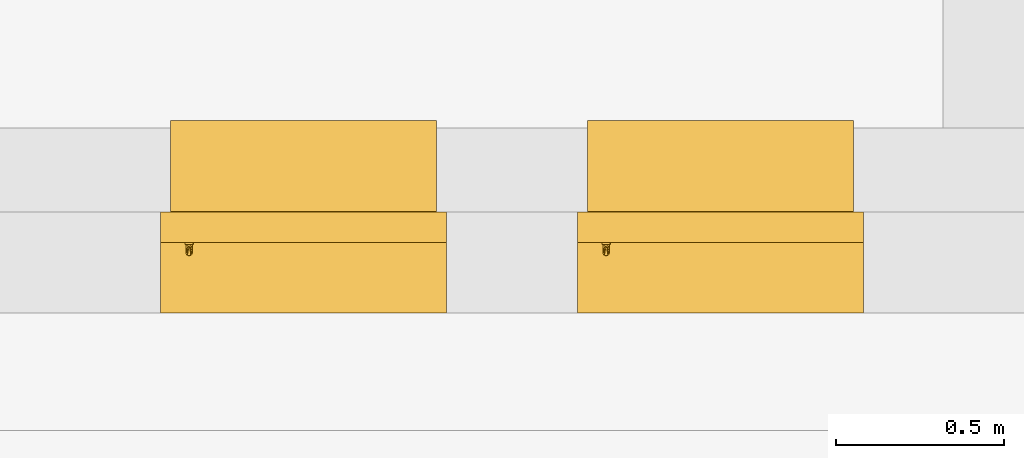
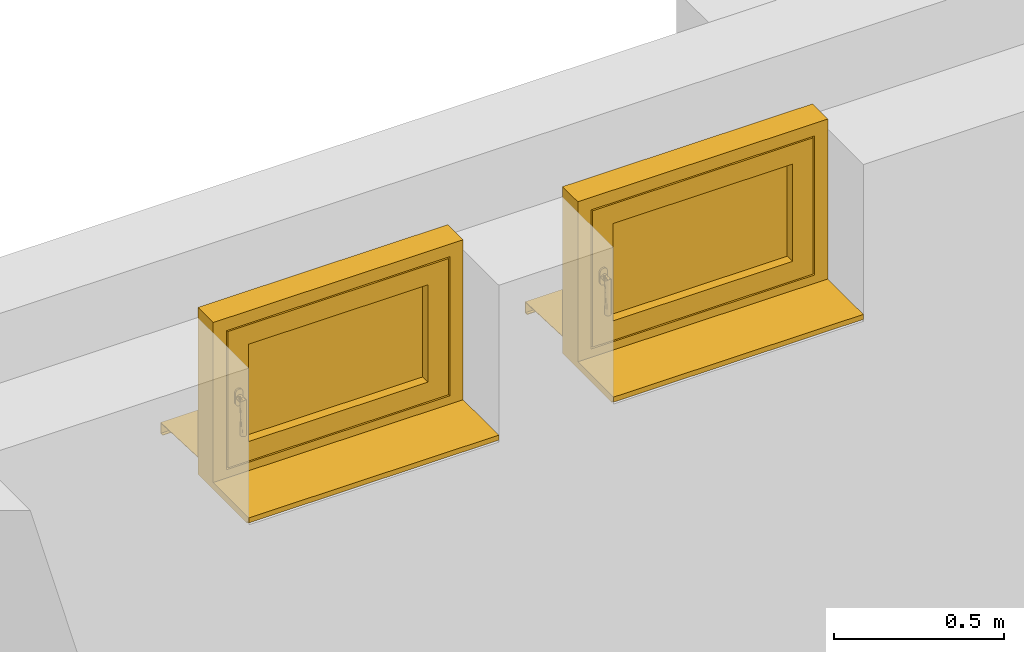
# One storey, part 20 of 22: 2 windows.
"""IFC2X3 building model written with IfcOpenShell, lengths in metres."""

from ifc_helpers import new_model, entity, si_unit, converted_unit, derived_unit, direction, frame, origin, origin_2d_with_axis, place, context, subcontext, project, spatial, polyline, rectangle, outline, extrude, faceted_brep, source, transform, mapped, material, material_list, type_object, type_shapes, element, save


model = new_model("IFC2X3")

# Units and contexts
model_context = context("Model", 3, precision=1e-05, world=origin(), true_north=direction((6.123233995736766e-17, 1.0)))
body_context = subcontext(model_context, "Body", "Model", "MODEL_VIEW")
ifc_project = project(units=[si_unit("LENGTHUNIT", "METRE"), si_unit("AREAUNIT", "SQUARE_METRE"), si_unit("VOLUMEUNIT", "CUBIC_METRE"), si_unit("POWERUNIT", "WATT"), derived_unit("USERDEFINED", [(si_unit("MASSUNIT", "GRAM", prefix="KILO"), 1), (si_unit("TIMEUNIT", "SECOND"), -3)]), derived_unit("THERMALRESISTANCEUNIT", [(si_unit("MASSUNIT", "GRAM", prefix="KILO"), -1), (si_unit("TIMEUNIT", "SECOND"), 3), (si_unit("THERMODYNAMICTEMPERATUREUNIT", "KELVIN"), 1)]), derived_unit("USERDEFINED", [(si_unit("MASSUNIT", "GRAM", prefix="KILO"), 1), (si_unit("TIMEUNIT", "SECOND"), -2), (si_unit("THERMODYNAMICTEMPERATUREUNIT", "KELVIN"), -1)]), derived_unit("THERMALTRANSMITTANCEUNIT", [(si_unit("MASSUNIT", "GRAM", prefix="KILO"), 1), (si_unit("TIMEUNIT", "SECOND"), -3), (si_unit("THERMODYNAMICTEMPERATUREUNIT", "KELVIN"), -1)]), converted_unit("PLANEANGLEUNIT", "DEGREE", entity("IfcPlaneAngleMeasure", 0.017453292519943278), si_unit("PLANEANGLEUNIT", "RADIAN"), dimensions=[0, 0, 0, 0, 0, 0, 0]), derived_unit("MOMENTOFINERTIAUNIT", [(si_unit("LENGTHUNIT", "METRE"), 4)])], contexts=[model_context])

# Site, building, storey
site_placement = place(None, origin())
site = spatial("IfcSite", under=ifc_project, at=site_placement, Name="Default", CompositionType="ELEMENT")
building_placement = place(site_placement, origin())
building = spatial("IfcBuilding", under=site, at=building_placement, CompositionType="ELEMENT")
storey_placement = place(building_placement, origin())
storey = spatial("IfcBuildingStorey", under=building, at=storey_placement, Name="Untergeschoss", CompositionType="ELEMENT", Elevation=0.0)

# Windows
ifc_material_1 = material(Name="Glas - Isolierverglasung klar")
ifc_material_2 = material(Name="Holz - generisch 140-100-70")
ifc_material_3 = material(Name="Metall - Edelstahl gebürstet")
ifc_material_4 = material(Name="Kunststoff - grau 70-70-70")
ifc_material_list = material_list([ifc_material_1, ifc_material_2, ifc_material_3, ifc_material_4])
window_style = type_object("IfcWindowStyle", Name="FE 1 tlg - DrehKipp:850 x 600", ConstructionType="NOTDEFINED", OperationType="NOTDEFINED", ParameterTakesPrecedence=False, Sizeable=False, material=ifc_material_list)
shared_shape = source(origin(), body_context, "Body", "SolidModel", [
    extrude(rectangle(XDim=0.6100000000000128, YDim=0.04399999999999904, at=origin_2d_with_axis()), frame((0.425000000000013, 0.26300000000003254, 0.13000000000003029), z_axis=(0.0, 0.0, 1.0), x_axis=(-1.0, 0.0, 0.0)), (0.0, 0.0, 1.0), 0.34999999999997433),
    extrude(outline(polyline([(-0.07333333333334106, -0.014333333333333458), (0.13666666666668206, -0.014333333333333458), (0.13666666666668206, 0.010666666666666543), (-0.06333333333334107, 0.010666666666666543), (-0.06333333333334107, 0.00366666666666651), (-0.07333333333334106, 0.00366666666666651), (-0.07333333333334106, -0.014333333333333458)])), frame((0.8500000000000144, 0.07333333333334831, 0.010666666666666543), z_axis=(-1.0, 0.0, 0.0), x_axis=(0.0, 1.0, 0.0)), (0.0, 0.0, 1.0), 0.8499999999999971),
    faceted_brep([(0.07250000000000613, 0.21000000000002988, 0.28749999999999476), (0.07250000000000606, 0.21000000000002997, 0.30499999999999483), (0.07250000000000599, 0.21000000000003, 0.3224999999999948), (0.07292592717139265, 0.21000000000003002, 0.32573523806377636), (0.07417468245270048, 0.21000000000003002, 0.3287499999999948), (0.07616116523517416, 0.21000000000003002, 0.3313388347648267), (0.078750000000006, 0.21000000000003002, 0.3333253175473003), (0.08176476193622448, 0.21000000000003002, 0.3345740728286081), (0.08500000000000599, 0.21000000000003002, 0.3349999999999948), (0.08823523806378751, 0.21000000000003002, 0.3345740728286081), (0.09125000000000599, 0.21000000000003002, 0.3333253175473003), (0.09383883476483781, 0.21000000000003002, 0.3313388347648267), (0.0958253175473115, 0.21000000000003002, 0.3287499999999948), (0.09707407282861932, 0.21000000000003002, 0.32573523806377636), (0.09750000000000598, 0.21000000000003, 0.3224999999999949), (0.09750000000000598, 0.21000000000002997, 0.30499999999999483), (0.09750000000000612, 0.21000000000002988, 0.28749999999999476), (0.09707407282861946, 0.21000000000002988, 0.2842647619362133), (0.09582531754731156, 0.21000000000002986, 0.28124999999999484), (0.09383883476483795, 0.21000000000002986, 0.278661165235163), (0.09125000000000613, 0.21000000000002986, 0.2766746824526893), (0.08823523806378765, 0.21000000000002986, 0.27542592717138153), (0.08500000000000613, 0.21000000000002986, 0.27499999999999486), (0.0817647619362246, 0.21000000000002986, 0.27542592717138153), (0.07875000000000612, 0.21000000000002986, 0.2766746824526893), (0.0761611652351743, 0.21000000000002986, 0.278661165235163), (0.07417468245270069, 0.21000000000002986, 0.28124999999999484), (0.07292592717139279, 0.21000000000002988, 0.2842647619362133), (0.07633974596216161, 0.17500000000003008, 0.3099999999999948), (0.08000000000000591, 0.20400000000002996, 0.3136602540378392), (0.07534074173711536, 0.17741180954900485, 0.30758819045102), (0.07792893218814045, 0.17292893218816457, 0.3120710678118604), (0.0824118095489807, 0.20400000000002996, 0.31465925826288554), (0.08758819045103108, 0.17034074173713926, 0.31465925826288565), (0.09000000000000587, 0.1713397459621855, 0.3136602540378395), (0.08000000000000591, 0.17133974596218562, 0.3136602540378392), (0.08241180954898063, 0.1703407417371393, 0.31465925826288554), (0.08500000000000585, 0.17000000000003, 0.314999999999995), (0.08500000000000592, 0.20400000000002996, 0.31499999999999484), (0.07534074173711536, 0.20400000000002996, 0.30758819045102), (0.07500000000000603, 0.20400000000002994, 0.30499999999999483), (0.07500000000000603, 0.19171565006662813, 0.30499999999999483), (0.07500000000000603, 0.18585782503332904, 0.30499999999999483), (0.07500000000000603, 0.18292891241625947, 0.30499999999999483), (0.07500000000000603, 0.18000000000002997, 0.30499999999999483), (0.07633974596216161, 0.20400000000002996, 0.3099999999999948), (0.07792893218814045, 0.20400000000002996, 0.3120710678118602), (0.0920710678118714, 0.1729289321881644, 0.3120710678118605), (0.09000000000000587, 0.20400000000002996, 0.31366025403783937), (0.09366025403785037, 0.17500000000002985, 0.30999999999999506), (0.09465925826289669, 0.17741180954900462, 0.30758819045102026), (0.08758819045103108, 0.20400000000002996, 0.31465925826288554), (0.0920710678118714, 0.20400000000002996, 0.3120710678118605), (0.09500000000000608, 0.18000000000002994, 0.30499999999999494), (0.09366025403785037, 0.20400000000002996, 0.30999999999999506), (0.09465925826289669, 0.20400000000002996, 0.30758819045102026), (0.09500000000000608, 0.18292891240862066, 0.30499999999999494), (0.09500000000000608, 0.18585782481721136, 0.30499999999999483), (0.09500000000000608, 0.19171564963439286, 0.30499999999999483), (0.09500000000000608, 0.20400000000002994, 0.3049999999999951), (0.09207106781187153, 0.18707106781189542, 0.29792893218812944), (0.09366025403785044, 0.18500000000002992, 0.2999999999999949), (0.09465925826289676, 0.18258819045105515, 0.3024118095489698), (0.09465925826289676, 0.20400000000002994, 0.3024118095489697), (0.09000000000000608, 0.1886602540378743, 0.29633974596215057), (0.08758819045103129, 0.18965925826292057, 0.2953407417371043), (0.09207106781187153, 0.2040000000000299, 0.29792893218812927), (0.09366025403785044, 0.20400000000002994, 0.2999999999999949), (0.090000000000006, 0.2040000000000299, 0.29633974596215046), (0.08758819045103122, 0.2040000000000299, 0.2953407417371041), (0.08500000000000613, 0.1900000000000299, 0.29499999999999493), (0.08500000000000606, 0.2040000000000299, 0.2949999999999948), (0.07792893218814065, 0.18707106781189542, 0.29792893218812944), (0.08000000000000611, 0.18866025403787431, 0.29633974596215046), (0.08241180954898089, 0.1896592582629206, 0.2953407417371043), (0.07792893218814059, 0.2040000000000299, 0.29792893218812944), (0.07534074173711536, 0.20400000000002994, 0.3024118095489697), (0.07534074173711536, 0.18258819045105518, 0.3024118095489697), (0.07633974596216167, 0.18500000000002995, 0.2999999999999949), (0.08241180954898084, 0.2040000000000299, 0.2953407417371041), (0.08000000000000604, 0.2040000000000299, 0.29633974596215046), (0.07633974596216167, 0.20400000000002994, 0.2999999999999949), (0.07500000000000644, 0.1800000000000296, 0.1849999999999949), (0.07534074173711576, 0.1825881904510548, 0.1849999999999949), (0.07633974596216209, 0.18500000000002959, 0.1849999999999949), (0.077928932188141, 0.18707106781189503, 0.1849999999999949), (0.08000000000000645, 0.18866025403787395, 0.1849999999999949), (0.08241180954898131, 0.18965925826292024, 0.1849999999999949), (0.08500000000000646, 0.19000000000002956, 0.1849999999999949), (0.0875881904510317, 0.18965925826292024, 0.1849999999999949), (0.09000000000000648, 0.18866025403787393, 0.1849999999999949), (0.09207106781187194, 0.187071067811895, 0.1849999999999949), (0.09366025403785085, 0.18500000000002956, 0.1849999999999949), (0.09465925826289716, 0.18258819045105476, 0.1849999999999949), (0.0950000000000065, 0.18000000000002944, 0.1849999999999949), (0.09465925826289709, 0.17741180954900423, 0.1849999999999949), (0.09366025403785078, 0.17500000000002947, 0.1849999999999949), (0.09207106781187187, 0.172928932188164, 0.1849999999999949), (0.09000000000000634, 0.17133974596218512, 0.1849999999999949), (0.08758819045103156, 0.17034074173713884, 0.1849999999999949), (0.08500000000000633, 0.17000000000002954, 0.1849999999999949), (0.08241180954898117, 0.1703407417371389, 0.1849999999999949), (0.08000000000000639, 0.17133974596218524, 0.1849999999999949), (0.07792893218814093, 0.17292893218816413, 0.1849999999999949), (0.07633974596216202, 0.17500000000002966, 0.1849999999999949), (0.07534074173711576, 0.17741180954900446, 0.1849999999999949), (0.07500000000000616, 0.18000000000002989, 0.2773956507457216), (0.07500000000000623, 0.1800000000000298, 0.2497913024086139), (0.09500000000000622, 0.18000000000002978, 0.24979130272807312), (0.09500000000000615, 0.18000000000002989, 0.277395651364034), (0.09582531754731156, 0.20400000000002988, 0.28124999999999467), (0.09383883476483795, 0.20400000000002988, 0.2786611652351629), (0.09707407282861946, 0.20400000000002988, 0.28426476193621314), (0.09750000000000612, 0.2040000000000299, 0.28749999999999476), (0.09750000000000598, 0.20400000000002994, 0.30499999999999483), (0.09750000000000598, 0.20400000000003, 0.3224999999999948), (0.09707407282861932, 0.20400000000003, 0.32573523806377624), (0.0958253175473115, 0.20400000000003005, 0.3287499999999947), (0.09383883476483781, 0.20400000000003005, 0.3313388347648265), (0.09125000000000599, 0.20400000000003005, 0.3333253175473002), (0.08823523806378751, 0.20400000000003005, 0.3345740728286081), (0.08500000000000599, 0.20400000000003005, 0.3349999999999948), (0.08176476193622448, 0.20400000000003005, 0.3345740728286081), (0.078750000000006, 0.20400000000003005, 0.3333253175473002), (0.07616116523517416, 0.20400000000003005, 0.3313388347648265), (0.07417468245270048, 0.20400000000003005, 0.3287499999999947), (0.07292592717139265, 0.20400000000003, 0.32573523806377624), (0.07250000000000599, 0.20400000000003, 0.3224999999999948), (0.07250000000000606, 0.20400000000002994, 0.30499999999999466), (0.07250000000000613, 0.2040000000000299, 0.28749999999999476), (0.07292592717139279, 0.20400000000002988, 0.28426476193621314), (0.07417468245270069, 0.20400000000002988, 0.28124999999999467), (0.0761611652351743, 0.20400000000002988, 0.2786611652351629), (0.07875000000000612, 0.20400000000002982, 0.2766746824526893), (0.0817647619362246, 0.20400000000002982, 0.2754259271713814), (0.08500000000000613, 0.20400000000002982, 0.27499999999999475), (0.08823523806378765, 0.20400000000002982, 0.2754259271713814), (0.09125000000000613, 0.20400000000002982, 0.2766746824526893)], [[[0, 1, 2, 3, 4, 5, 6, 7, 8, 9, 10, 11, 12, 13, 14, 15, 16, 17, 18, 19, 20, 21, 22, 23, 24, 25, 26, 27]], [[28, 29, 30]], [[31, 32, 28]], [[33, 34, 35, 36, 37]], [[32, 31, 38]], [[38, 31, 35]], [[39, 40, 41, 42, 43, 44]], [[39, 44, 45]], [[46, 45, 44]], [[46, 30, 29]], [[44, 30, 46]], [[28, 32, 29]], [[35, 34, 38]], [[47, 38, 34]], [[48, 49, 50]], [[47, 49, 51]], [[52, 50, 53]], [[51, 38, 47]], [[48, 51, 49]], [[54, 52, 53]], [[55, 53, 56, 57, 58, 59]], [[54, 53, 55]], [[48, 50, 52]], [[60, 58, 61]], [[53, 62, 57, 56]], [[58, 63, 59]], [[58, 57, 61]], [[64, 65, 66]], [[58, 64, 66]], [[58, 60, 64]], [[58, 67, 63]], [[65, 68, 66]], [[67, 58, 66]], [[68, 65, 69]], [[70, 71, 69, 65]], [[61, 57, 62]], [[72, 41, 73]], [[74, 73, 75]], [[76, 41, 40]], [[77, 44, 43, 42]], [[42, 78, 77]], [[78, 41, 72]], [[71, 70, 74, 79]], [[80, 79, 74]], [[75, 73, 41]], [[42, 41, 78]], [[41, 76, 81]], [[41, 81, 75]], [[80, 74, 75]], [[82, 83, 84, 85, 86, 87, 88, 89, 90, 91, 92, 93, 94, 95, 96, 97, 98, 99, 100, 101, 102, 103, 104, 105]], [[105, 44, 106, 107, 82]], [[104, 44, 105]], [[102, 101, 36, 35]], [[30, 104, 103]], [[31, 103, 102, 35]], [[103, 28, 30]], [[30, 44, 104]], [[31, 28, 103]], [[100, 37, 36, 101]], [[98, 97, 47, 34]], [[99, 98, 34, 33]], [[95, 94, 108, 109, 53]], [[96, 95, 53]], [[97, 96, 50]], [[33, 37, 100, 99]], [[97, 49, 47]], [[97, 50, 49]], [[96, 53, 50]], [[108, 92, 91]], [[92, 108, 93]], [[89, 65, 108]], [[108, 90, 89]], [[108, 91, 90]], [[93, 108, 94]], [[62, 53, 109]], [[61, 62, 109]], [[70, 65, 89, 88]], [[64, 108, 65]], [[108, 64, 60]], [[109, 60, 61]], [[106, 78, 72]], [[78, 106, 77]], [[85, 107, 86]], [[86, 107, 87]], [[82, 107, 83]], [[44, 77, 106]], [[83, 107, 84]], [[84, 107, 85]], [[74, 70, 88, 87]], [[87, 107, 74]], [[107, 72, 73]], [[107, 106, 72]], [[73, 74, 107]], [[108, 60, 109]], [[110, 71, 111]], [[69, 71, 110]], [[112, 69, 110]], [[112, 113, 69]], [[69, 113, 68]], [[66, 68, 113]], [[67, 66, 113]], [[114, 67, 113]], [[114, 63, 67]], [[114, 59, 63]], [[55, 59, 114]], [[114, 54, 55]], [[54, 114, 115]], [[52, 54, 115]], [[48, 52, 115]], [[51, 48, 115]], [[116, 51, 115]], [[116, 117, 51]], [[51, 117, 38]], [[118, 38, 117]], [[38, 118, 119]], [[119, 120, 38]], [[38, 120, 121]], [[38, 121, 122]], [[122, 123, 38]], [[123, 124, 38]], [[125, 38, 124]], [[32, 38, 125]], [[126, 32, 125]], [[32, 126, 127]], [[29, 32, 127]], [[46, 29, 127]], [[45, 46, 127]], [[127, 128, 45]], [[128, 39, 45]], [[128, 40, 39]], [[128, 76, 40]], [[128, 81, 76]], [[128, 129, 81]], [[81, 129, 75]], [[80, 75, 129]], [[79, 80, 129]], [[79, 129, 130]], [[130, 131, 79]], [[71, 131, 132]], [[71, 79, 131]], [[133, 71, 132]], [[71, 133, 134]], [[135, 71, 134]], [[136, 71, 135]], [[71, 136, 137]], [[111, 71, 137]], [[13, 116, 115, 14]], [[12, 117, 116, 13]], [[119, 118, 11, 10]], [[12, 11, 118, 117]], [[120, 119, 10, 9]], [[121, 120, 9, 8]], [[7, 122, 121, 8]], [[6, 123, 122, 7]], [[125, 124, 5, 4]], [[6, 5, 124, 123]], [[126, 125, 4, 3]], [[127, 126, 3, 2]], [[128, 127, 2, 1, 0, 129]], [[27, 130, 129, 0]], [[26, 131, 130, 27]], [[133, 132, 25, 24]], [[26, 25, 132, 131]], [[134, 133, 24, 23]], [[135, 134, 23, 22]], [[21, 136, 135, 22]], [[20, 137, 136, 21]], [[110, 111, 19, 18]], [[20, 19, 111, 137]], [[112, 110, 18, 17]], [[113, 112, 17, 16]], [[114, 113, 16, 15, 14, 115]]]),
    faceted_brep([(0.7300000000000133, 0.21000000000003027, 0.4799999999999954), (0.730000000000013, 0.30000000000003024, 0.4799999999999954), (0.7300000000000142, 0.30000000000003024, 0.12999999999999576), (0.7300000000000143, 0.2100000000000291, 0.12999999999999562), (0.7600000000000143, 0.300000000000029, 0.09999999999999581), (0.09000000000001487, 0.300000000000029, 0.09999999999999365), (0.09000000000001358, 0.30000000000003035, 0.5099999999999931), (0.760000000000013, 0.30000000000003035, 0.5099999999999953), (0.1200000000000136, 0.30000000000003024, 0.4799999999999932), (0.12000000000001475, 0.30000000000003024, 0.12999999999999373), (0.12000000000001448, 0.2100000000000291, 0.1299999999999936), (0.1200000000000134, 0.21000000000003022, 0.47999999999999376), (0.800000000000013, 0.2100000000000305, 0.5499999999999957), (0.05000000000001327, 0.2100000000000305, 0.5499999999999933), (0.050000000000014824, 0.2100000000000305, 0.05999999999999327), (0.8000000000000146, 0.2100000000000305, 0.0599999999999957), (0.800000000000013, 0.2250000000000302, 0.5499999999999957), (0.8000000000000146, 0.22500000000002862, 0.059999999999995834), (0.050000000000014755, 0.22500000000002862, 0.0599999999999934), (0.05000000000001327, 0.2250000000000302, 0.5499999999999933), (0.7850000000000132, 0.22500000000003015, 0.5349999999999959), (0.06500000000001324, 0.22500000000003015, 0.5349999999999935), (0.0650000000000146, 0.22500000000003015, 0.07499999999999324), (0.7850000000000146, 0.22500000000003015, 0.07499999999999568), (0.7850000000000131, 0.2550000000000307, 0.5349999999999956), (0.7850000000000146, 0.25500000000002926, 0.0749999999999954), (0.06500000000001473, 0.25500000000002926, 0.0749999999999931), (0.06500000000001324, 0.25500000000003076, 0.5349999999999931), (0.775000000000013, 0.2550000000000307, 0.5249999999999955), (0.07500000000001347, 0.2550000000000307, 0.5249999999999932), (0.07500000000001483, 0.2550000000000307, 0.0849999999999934), (0.7750000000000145, 0.2550000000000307, 0.08499999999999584), (0.7750000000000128, 0.2850000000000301, 0.5249999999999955), (0.7750000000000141, 0.28500000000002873, 0.08499999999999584), (0.07500000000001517, 0.28500000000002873, 0.08499999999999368), (0.07500000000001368, 0.2850000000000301, 0.524999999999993), (0.760000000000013, 0.2850000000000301, 0.5099999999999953), (0.09000000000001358, 0.2850000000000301, 0.5099999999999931), (0.09000000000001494, 0.2850000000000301, 0.09999999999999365), (0.7600000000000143, 0.2850000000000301, 0.09999999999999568)], [[[0, 1, 2, 3]], [[4, 5, 6, 7], [1, 8, 9, 2]], [[3, 2, 9, 10]], [[3, 10, 11, 0], [12, 13, 14, 15]], [[16, 12, 15, 17]], [[17, 15, 14, 18]], [[17, 18, 19, 16], [20, 21, 22, 23]], [[24, 20, 23, 25]], [[25, 23, 22, 26]], [[25, 26, 27, 24], [28, 29, 30, 31]], [[32, 28, 31, 33]], [[33, 31, 30, 34]], [[33, 34, 35, 32], [36, 37, 38, 39]], [[7, 36, 39, 4]], [[4, 39, 38, 5]], [[10, 9, 8, 11]], [[18, 14, 13, 19]], [[26, 22, 21, 27]], [[34, 30, 29, 35]], [[5, 38, 37, 6]], [[11, 8, 1, 0]], [[19, 13, 12, 16]], [[27, 21, 20, 24]], [[35, 29, 28, 32]], [[6, 37, 36, 7]]], outer=[[True], [True, False], [True], [False, True], [True], [True], [True, False], [True], [True], [True, False], [True], [True], [True, False], [True], [True], [True], [True], [True], [True], [True], [True], [True], [True], [True], [True]]),
    faceted_brep([(0.8200000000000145, 0.5720000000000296, 0.011120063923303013), (0.030000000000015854, 0.5720000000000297, 0.011120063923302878), (0.030000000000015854, 0.5500000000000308, 0.012000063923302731), (0.030000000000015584, 0.30200000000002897, 0.021920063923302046), (0.8200000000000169, 0.30200000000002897, 0.021920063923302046), (0.8200000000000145, 0.5500000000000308, 0.012000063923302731), (0.8200000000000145, 0.5720000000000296, -0.02887993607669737), (0.030000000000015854, 0.5720000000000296, -0.028879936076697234), (0.8200000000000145, 0.5600000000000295, -0.02887993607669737), (0.030000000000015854, 0.5600000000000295, -0.02887993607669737), (0.8200000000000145, 0.5600000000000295, -0.02687993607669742), (0.030000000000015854, 0.5600000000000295, -0.026879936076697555), (0.8200000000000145, 0.5700000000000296, -0.02687993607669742), (0.030000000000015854, 0.5700000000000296, -0.02687993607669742), (0.8200000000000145, 0.5700000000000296, 0.00920000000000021), (0.030000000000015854, 0.5700000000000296, 0.00920000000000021), (0.8200000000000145, 0.5500000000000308, 0.010000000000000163), (0.8200000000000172, 0.30000000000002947, 0.02000000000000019), (0.030000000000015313, 0.3000000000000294, 0.02000000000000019), (0.030000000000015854, 0.5500000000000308, 0.010000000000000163), (0.8200000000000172, 0.30000000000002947, 0.040000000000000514), (0.030000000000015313, 0.30000000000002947, 0.040000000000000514), (0.8200000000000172, 0.30200000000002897, 0.040000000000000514), (0.030000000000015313, 0.30200000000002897, 0.040000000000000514)], [[[0, 1, 2, 3, 4, 5]], [[6, 7, 1, 0]], [[8, 9, 7, 6]], [[10, 11, 9, 8]], [[12, 13, 11, 10]], [[14, 15, 13, 12]], [[16, 17, 18, 19, 15, 14]], [[20, 21, 18, 17]], [[22, 23, 21, 20]], [[4, 3, 23, 22]], [[16, 14, 12, 10, 8, 6, 0, 5]], [[19, 18, 21, 23, 3, 2]], [[5, 4, 22, 20, 17, 16]], [[2, 1, 7, 9, 11, 13, 15, 19]]]),
    faceted_brep([(0.0, 0.3000000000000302, 0.0), (0.8500000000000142, 0.3000000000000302, 0.0), (0.8500000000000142, 0.21000000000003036, 0.0), (0.0, 0.21000000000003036, 0.0), (0.0, 0.3000000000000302, 0.5999999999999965), (0.0, 0.21000000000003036, 0.5999999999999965), (0.8500000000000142, 0.21000000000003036, 0.5999999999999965), (0.04500000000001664, 0.21000000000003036, 0.5549999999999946), (0.8050000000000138, 0.21000000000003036, 0.5549999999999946), (0.8050000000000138, 0.21000000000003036, 0.05500000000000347), (0.04500000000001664, 0.21000000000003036, 0.05500000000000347), (0.8500000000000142, 0.3000000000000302, 0.5999999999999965), (0.08500000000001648, 0.3000000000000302, 0.09500000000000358), (0.7650000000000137, 0.3000000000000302, 0.09500000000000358), (0.7650000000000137, 0.3000000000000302, 0.5149999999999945), (0.08500000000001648, 0.3000000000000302, 0.5149999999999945), (0.08500000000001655, 0.2850000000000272, 0.5149999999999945), (0.08500000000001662, 0.2850000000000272, 0.09500000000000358), (0.7650000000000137, 0.2850000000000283, 0.09500000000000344), (0.7650000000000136, 0.2850000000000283, 0.5149999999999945), (0.04500000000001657, 0.2250000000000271, 0.5549999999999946), (0.04500000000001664, 0.2250000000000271, 0.0550000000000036), (0.8050000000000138, 0.22500000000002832, 0.05500000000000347), (0.8050000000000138, 0.22500000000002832, 0.5549999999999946), (0.060000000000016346, 0.22500000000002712, 0.5399999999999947), (0.790000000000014, 0.22500000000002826, 0.5399999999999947), (0.790000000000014, 0.22500000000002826, 0.07000000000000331), (0.06000000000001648, 0.22500000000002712, 0.07000000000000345), (0.060000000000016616, 0.2550000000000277, 0.07000000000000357), (0.7900000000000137, 0.25500000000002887, 0.07000000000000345), (0.7900000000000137, 0.25500000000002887, 0.5399999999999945), (0.060000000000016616, 0.2550000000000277, 0.5399999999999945), (0.07000000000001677, 0.2550000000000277, 0.5299999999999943), (0.7800000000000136, 0.25500000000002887, 0.5299999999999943), (0.7800000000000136, 0.25500000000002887, 0.08000000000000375), (0.07000000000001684, 0.2550000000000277, 0.08000000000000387), (0.07000000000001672, 0.2850000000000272, 0.08000000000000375), (0.7800000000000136, 0.2850000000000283, 0.08000000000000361), (0.7800000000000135, 0.2850000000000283, 0.5299999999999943), (0.07000000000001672, 0.2850000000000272, 0.5299999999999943)], [[[0, 1, 2, 3]], [[4, 0, 3, 5]], [[5, 3, 2, 6], [7, 8, 9, 10]], [[6, 2, 1, 11]], [[11, 1, 0, 4], [12, 13, 14, 15]], [[12, 15, 16, 17]], [[18, 19, 14, 13]], [[17, 18, 13, 12]], [[20, 7, 10, 21]], [[10, 9, 22, 21]], [[9, 8, 23, 22]], [[21, 22, 23, 20], [24, 25, 26, 27]], [[28, 29, 30, 31], [32, 33, 34, 35]], [[31, 24, 27, 28]], [[27, 26, 29, 28]], [[36, 37, 38, 39], [16, 19, 18, 17]], [[39, 32, 35, 36]], [[35, 34, 37, 36]], [[26, 25, 30, 29]], [[34, 33, 38, 37]], [[4, 5, 6, 11]], [[20, 23, 8, 7]], [[31, 30, 25, 24]], [[39, 38, 33, 32]], [[15, 14, 19, 16]]]),
])
type_shapes(window_style, [shared_shape])
for number, where, name in (
    (1, (36.34672000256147, 28.04227237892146, 1.7862784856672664), "FE 1 tlg - DrehKipp:850 x 600"),
    (2, (35.10672000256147, 28.042272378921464, 1.7862784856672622), "FE 1 tlg - DrehKipp:850 x 600"),
):
    element("IfcWindow", number, at=place(storey_placement, frame(where)), inside=storey, type_object=window_style, material=ifc_material_list, Name=name, ObjectType="FE 1 tlg - DrehKipp:850 x 600", OverallHeight=1.450000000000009, OverallWidth=0.8500000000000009, context=body_context, shape_type="MappedRepresentation", body=[
        mapped(shared_shape, transform((0.0, 0.0, 0.0), scale=1.0)),
    ])

save(model, "model.ifc")
